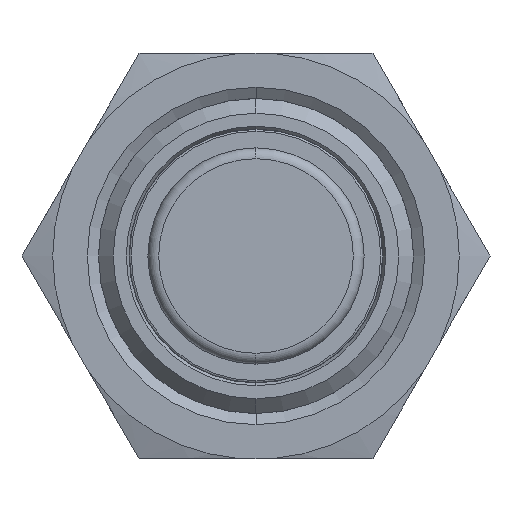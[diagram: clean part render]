
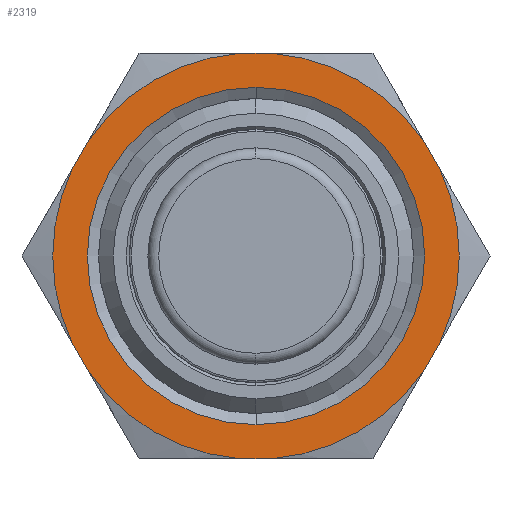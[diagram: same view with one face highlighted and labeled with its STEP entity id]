
A CAD part, left-side view. The second image highlights one B-rep face of the part: STEP entity #2319.
In plain terms, the highlighted planar face has unit normal (-1, 0, 0).
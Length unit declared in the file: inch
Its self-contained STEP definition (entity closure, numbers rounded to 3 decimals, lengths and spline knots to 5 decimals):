
#2 = CARTESIAN_POINT ( 'NONE',  ( 0.0305, -0.27049, 0.4685 ) ) ;
#4 = DIRECTION ( 'NONE',  ( 0., -0.5, -0.866 ) ) ;
#11 = CARTESIAN_POINT ( 'NONE',  ( 0.0305, 0., 0. ) ) ;
#12 = DIRECTION ( 'NONE',  ( 1., 0., 0. ) ) ;
#13 = DIRECTION ( 'NONE',  ( 0., 0., -1. ) ) ;
#23 = LINE ( 'NONE', #24, #1427 ) ;
#24 = CARTESIAN_POINT ( 'NONE',  ( 0.0305, 0.27049, 0.4685 ) ) ;
#30 = DIRECTION ( 'NONE',  ( 0., -1., 0. ) ) ;
#79 = LINE ( 'NONE', #87, #985 ) ;
#87 = CARTESIAN_POINT ( 'NONE',  ( 0.0305, -0.27049, -0.4685 ) ) ;
#88 = DIRECTION ( 'NONE',  ( 0., 1., 0. ) ) ;
#91 = CARTESIAN_POINT ( 'NONE',  ( 0.0305, 0., 0. ) ) ;
#92 = DIRECTION ( 'NONE',  ( 1., 0., 0. ) ) ;
#93 = DIRECTION ( 'NONE',  ( 0., 0., -1. ) ) ;
#101 = CARTESIAN_POINT ( 'NONE',  ( 0.0305, 0.54098, 0. ) ) ;
#102 = CARTESIAN_POINT ( 'NONE',  ( 0.0305, 0., 0. ) ) ;
#103 = DIRECTION ( 'NONE',  ( -1., 0., 0. ) ) ;
#104 = DIRECTION ( 'NONE',  ( 0., 0., 1. ) ) ;
#105 = LINE ( 'NONE', #101, #959 ) ;
#106 = CARTESIAN_POINT ( 'NONE',  ( 0.0305, 0., 0. ) ) ;
#107 = DIRECTION ( 'NONE',  ( -1., 0., 0. ) ) ;
#108 = DIRECTION ( 'NONE',  ( 0., 0., 1. ) ) ;
#109 = CARTESIAN_POINT ( 'NONE',  ( 0.0305, 0.27049, -0.4685 ) ) ;
#110 = DIRECTION ( 'NONE',  ( 0., -0.5, 0.866 ) ) ;
#113 = LINE ( 'NONE', #109, #971 ) ;
#114 = CARTESIAN_POINT ( 'NONE',  ( 0.0305, 0., 0. ) ) ;
#115 = DIRECTION ( 'NONE',  ( 1., 0., 0. ) ) ;
#116 = DIRECTION ( 'NONE',  ( 0., 0., -1. ) ) ;
#117 = DIRECTION ( 'NONE',  ( 0., 0.5, 0.866 ) ) ;
#493 = CARTESIAN_POINT ( 'NONE',  ( 0.0305, 0.81147, -0.4685 ) ) ;
#496 = FACE_BOUND ( 'NONE', #1561, .T. ) ;
#497 = FACE_OUTER_BOUND ( 'NONE', #1580, .T. ) ;
#498 = PLANE ( 'NONE',  #653 ) ;
#500 = DIRECTION ( 'NONE',  ( 1., 0., 0. ) ) ;
#501 = DIRECTION ( 'NONE',  ( 0., 0., -1. ) ) ;
#518 = CARTESIAN_POINT ( 'NONE',  ( 0.0305, -0.38697, -0.26674 ) ) ;
#519 = CARTESIAN_POINT ( 'NONE',  ( 0.0305, -0.42449, 0.20176 ) ) ;
#521 = CARTESIAN_POINT ( 'NONE',  ( 0.0305, 0.03752, 0.4685 ) ) ;
#530 = CARTESIAN_POINT ( 'NONE',  ( 0.0305, -0.42449, -0.20176 ) ) ;
#533 = CARTESIAN_POINT ( 'NONE',  ( 0.0305, -0.38697, 0.26674 ) ) ;
#537 = CARTESIAN_POINT ( 'NONE',  ( 0.0305, 0.03752, -0.4685 ) ) ;
#540 = CARTESIAN_POINT ( 'NONE',  ( 0.0305, 0.38697, 0.26674 ) ) ;
#541 = CARTESIAN_POINT ( 'NONE',  ( 0.0305, 0.38697, -0.26674 ) ) ;
#542 = CARTESIAN_POINT ( 'NONE',  ( 0.0305, 0.42449, 0.20176 ) ) ;
#543 = CARTESIAN_POINT ( 'NONE',  ( 0.0305, 0.42449, -0.20176 ) ) ;
#546 = CARTESIAN_POINT ( 'NONE',  ( 0.0305, -0.03752, -0.4685 ) ) ;
#548 = CARTESIAN_POINT ( 'NONE',  ( 0.0305, -0.03752, 0.4685 ) ) ;
#653 = AXIS2_PLACEMENT_3D ( 'NONE', #493, #500, #501 ) ;
#833 = VERTEX_POINT ( 'NONE', #2952 ) ;
#901 = VERTEX_POINT ( 'NONE', #3006 ) ;
#948 = CIRCLE ( 'NONE', #984, 0.47 ) ;
#950 = CIRCLE ( 'NONE', #975, 0.39 ) ;
#959 = VECTOR ( 'NONE', #110, 39.37008 ) ;
#961 = CIRCLE ( 'NONE', #986, 0.47 ) ;
#965 = CIRCLE ( 'NONE', #980, 0.47 ) ;
#971 = VECTOR ( 'NONE', #117, 39.37008 ) ;
#975 = AXIS2_PLACEMENT_3D ( 'NONE', #102, #103, #104 ) ;
#980 = AXIS2_PLACEMENT_3D ( 'NONE', #91, #92, #93 ) ;
#984 = AXIS2_PLACEMENT_3D ( 'NONE', #106, #107, #108 ) ;
#985 = VECTOR ( 'NONE', #88, 39.37008 ) ;
#986 = AXIS2_PLACEMENT_3D ( 'NONE', #114, #115, #116 ) ;
#1402 = CIRCLE ( 'NONE', #1405, 0.39 ) ;
#1405 = AXIS2_PLACEMENT_3D ( 'NONE', #3449, #3450, #3451 ) ;
#1412 = CIRCLE ( 'NONE', #1413, 0.47 ) ;
#1413 = AXIS2_PLACEMENT_3D ( 'NONE', #3504, #3505, #3506 ) ;
#1415 = VECTOR ( 'NONE', #3522, 39.37008 ) ;
#1418 = AXIS2_PLACEMENT_3D ( 'NONE', #3529, #3530, #3531 ) ;
#1419 = CIRCLE ( 'NONE', #1418, 0.47 ) ;
#1420 = VECTOR ( 'NONE', #4, 39.37008 ) ;
#1423 = AXIS2_PLACEMENT_3D ( 'NONE', #11, #12, #13 ) ;
#1424 = CIRCLE ( 'NONE', #1423, 0.47 ) ;
#1427 = VECTOR ( 'NONE', #30, 39.37008 ) ;
#1561 = EDGE_LOOP ( 'NONE', ( #1609, #1608 ) ) ;
#1580 = EDGE_LOOP ( 'NONE', ( #1607, #1605, #1603, #1612, #1599, #1601, #1602, #1611, #1613, #1614, #1615, #1616 ) ) ;
#1599 = ORIENTED_EDGE ( 'NONE', *, *, #2202, .F. ) ;
#1601 = ORIENTED_EDGE ( 'NONE', *, *, #2206, .F. ) ;
#1602 = ORIENTED_EDGE ( 'NONE', *, *, #2208, .F. ) ;
#1603 = ORIENTED_EDGE ( 'NONE', *, *, #2195, .F. ) ;
#1605 = ORIENTED_EDGE ( 'NONE', *, *, #2229, .F. ) ;
#1607 = ORIENTED_EDGE ( 'NONE', *, *, #2230, .F. ) ;
#1608 = ORIENTED_EDGE ( 'NONE', *, *, #2182, .F. ) ;
#1609 = ORIENTED_EDGE ( 'NONE', *, *, #2233, .F. ) ;
#1611 = ORIENTED_EDGE ( 'NONE', *, *, #2213, .F. ) ;
#1612 = ORIENTED_EDGE ( 'NONE', *, *, #2200, .F. ) ;
#1613 = ORIENTED_EDGE ( 'NONE', *, *, #2234, .T. ) ;
#1614 = ORIENTED_EDGE ( 'NONE', *, *, #2235, .F. ) ;
#1615 = ORIENTED_EDGE ( 'NONE', *, *, #2236, .F. ) ;
#1616 = ORIENTED_EDGE ( 'NONE', *, *, #2237, .F. ) ;
#2182 = EDGE_CURVE ( 'NONE', #901, #833, #1402, .T. ) ;
#2195 = EDGE_CURVE ( 'NONE', #2851, #3046, #1412, .T. ) ;
#2200 = EDGE_CURVE ( 'NONE', #2978, #2851, #3515, .T. ) ;
#2202 = EDGE_CURVE ( 'NONE', #2853, #2978, #1419, .T. ) ;
#2206 = EDGE_CURVE ( 'NONE', #3014, #2853, #3537, .T. ) ;
#2208 = EDGE_CURVE ( 'NONE', #3054, #3014, #1424, .T. ) ;
#2213 = EDGE_CURVE ( 'NONE', #2874, #3054, #23, .T. ) ;
#2229 = EDGE_CURVE ( 'NONE', #3046, #3020, #79, .T. ) ;
#2230 = EDGE_CURVE ( 'NONE', #3020, #3025, #965, .T. ) ;
#2233 = EDGE_CURVE ( 'NONE', #833, #901, #950, .T. ) ;
#2234 = EDGE_CURVE ( 'NONE', #2874, #3024, #948, .T. ) ;
#2235 = EDGE_CURVE ( 'NONE', #3026, #3024, #105, .T. ) ;
#2236 = EDGE_CURVE ( 'NONE', #3027, #3026, #961, .T. ) ;
#2237 = EDGE_CURVE ( 'NONE', #3025, #3027, #113, .T. ) ;
#2319 = ADVANCED_FACE ( 'NONE', ( #496, #497 ), #498, .F. ) ;
#2851 = VERTEX_POINT ( 'NONE', #518 ) ;
#2853 = VERTEX_POINT ( 'NONE', #519 ) ;
#2874 = VERTEX_POINT ( 'NONE', #521 ) ;
#2952 = CARTESIAN_POINT ( 'NONE',  ( 0.0305, 0., 0.39 ) ) ;
#2978 = VERTEX_POINT ( 'NONE', #530 ) ;
#3006 = CARTESIAN_POINT ( 'NONE',  ( 0.0305, 0., -0.39 ) ) ;
#3014 = VERTEX_POINT ( 'NONE', #533 ) ;
#3020 = VERTEX_POINT ( 'NONE', #537 ) ;
#3024 = VERTEX_POINT ( 'NONE', #540 ) ;
#3025 = VERTEX_POINT ( 'NONE', #541 ) ;
#3026 = VERTEX_POINT ( 'NONE', #542 ) ;
#3027 = VERTEX_POINT ( 'NONE', #543 ) ;
#3046 = VERTEX_POINT ( 'NONE', #546 ) ;
#3054 = VERTEX_POINT ( 'NONE', #548 ) ;
#3449 = CARTESIAN_POINT ( 'NONE',  ( 0.0305, 0., 0. ) ) ;
#3450 = DIRECTION ( 'NONE',  ( -1., 0., 0. ) ) ;
#3451 = DIRECTION ( 'NONE',  ( 0., 0., 1. ) ) ;
#3504 = CARTESIAN_POINT ( 'NONE',  ( 0.0305, 0., 0. ) ) ;
#3505 = DIRECTION ( 'NONE',  ( 1., 0., 0. ) ) ;
#3506 = DIRECTION ( 'NONE',  ( 0., 0., -1. ) ) ;
#3515 = LINE ( 'NONE', #3520, #1415 ) ;
#3520 = CARTESIAN_POINT ( 'NONE',  ( 0.0305, -0.54098, 0. ) ) ;
#3522 = DIRECTION ( 'NONE',  ( 0., 0.5, -0.866 ) ) ;
#3529 = CARTESIAN_POINT ( 'NONE',  ( 0.0305, 0., 0. ) ) ;
#3530 = DIRECTION ( 'NONE',  ( 1., 0., 0. ) ) ;
#3531 = DIRECTION ( 'NONE',  ( 0., 0., -1. ) ) ;
#3537 = LINE ( 'NONE', #2, #1420 ) ;
